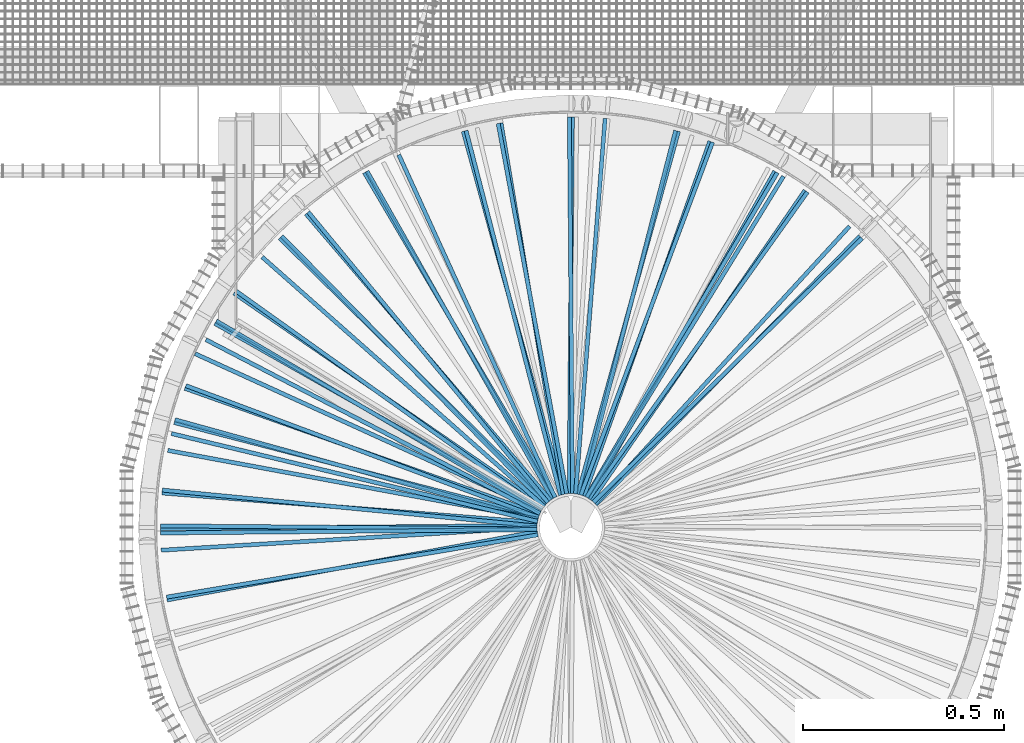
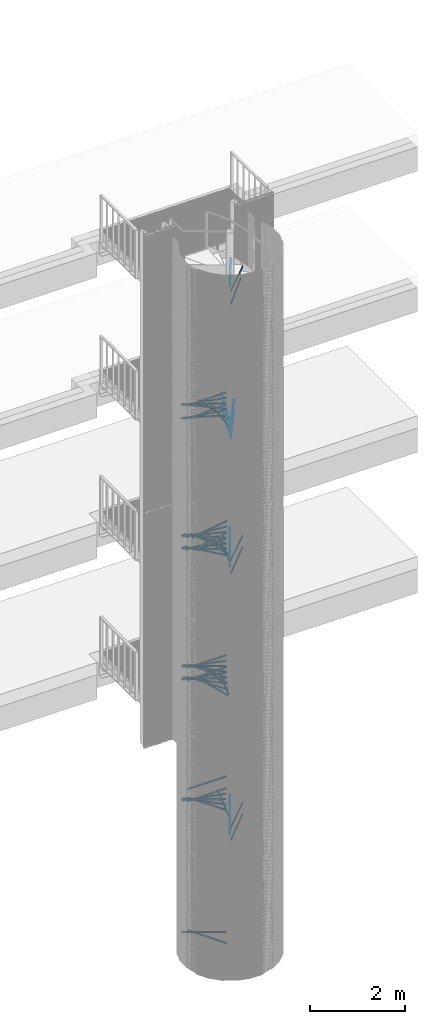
# One storey, part 218 of 1148: 61 beams, 4 elements without a shape of their own.
"""IFC2X3 building model written with IfcOpenShell, lengths in millimetres."""

from ifc_helpers import new_model, si_unit, frame, origin_with_axes, origin_2d_with_axis, place, context, subcontext, project, spatial, rectangle, extrude, material, type_object, element, aggregate, save


model = new_model("IFC2X3")

# Units and contexts
model_context = context("Model", 3, precision=1e-05, world=origin_with_axes())
body_context = subcontext(model_context, "Body", "Model", "MODEL_VIEW")
ifc_project = project(units=[si_unit("LENGTHUNIT", "METRE", prefix="MILLI"), si_unit("AREAUNIT", "SQUARE_METRE"), si_unit("VOLUMEUNIT", "CUBIC_METRE"), si_unit("MASSUNIT", "GRAM", prefix="KILO"), si_unit("TIMEUNIT", "SECOND"), si_unit("PLANEANGLEUNIT", "RADIAN"), si_unit("SOLIDANGLEUNIT", "STERADIAN"), si_unit("THERMODYNAMICTEMPERATUREUNIT", "DEGREE_CELSIUS"), si_unit("LUMINOUSINTENSITYUNIT", "LUMEN")], contexts=[model_context])

# Site, building, storey
site_placement = place(None, origin_with_axes())
site = spatial("IfcSite", under=ifc_project, at=site_placement, Name="Undefined", CompositionType="ELEMENT")
building_placement = place(site_placement, origin_with_axes())
building = spatial("IfcBuilding", under=site, at=building_placement, Name="Undefined", CompositionType="ELEMENT")
storey_placement = place(building_placement, origin_with_axes())
storey = spatial("IfcBuildingStorey", under=building, at=storey_placement, Name="Undefined", CompositionType="ELEMENT", Elevation=0.0)

# Assembly, beams
assembly_1_placement = place(storey_placement, origin_with_axes())
assembly_1 = element("IfcElementAssembly", 1, at=assembly_1_placement, inside=storey, Name="POTEAU", AssemblyPlace="NOTDEFINED", PredefinedType="NOTDEFINED")
ifc_material = material(Name="STEEL/S235JR")
beam_type = type_object("IfcBeamType", Name="PL10*40", PredefinedType="NOTDEFINED")
beam_1_placement = place(assembly_1_placement, frame((24.6816633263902, 80.3530437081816, 13509.44), z_axis=(0.0, 0.0, 1.0), x_axis=(0.349966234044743, 0.936762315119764, 0.0)))
beam_1 = element("IfcBeam", 2, at=beam_1_placement, type_object=beam_type, material=ifc_material, Name="RAIDISSEUR", context=body_context, shape_type="SweptSolid", body=[
    extrude(rectangle(XDim=10.0, YDim=40.0, at=origin_2d_with_axis()), frame((935.982964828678, -2.59787459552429e-14, -3.63797880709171e-12), z_axis=(-1.0, 0.0, 0.0), x_axis=(0.0, -1.0, 0.0)), (0.0, 0.0, 1.0), 935.98),
])
beam_2_placement = place(assembly_1_placement, frame((-10.3535337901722, 83.4182262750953, 13509.44), z_axis=(0.0, 0.0, 1.0), x_axis=(-0.181982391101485, 0.983301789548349, 0.0)))
beam_2 = element("IfcBeam", 3, at=beam_2_placement, type_object=beam_type, material=ifc_material, Name="RAIDISSEUR", context=body_context, shape_type="SweptSolid", body=[
    extrude(rectangle(XDim=10.0, YDim=40.0, at=origin_2d_with_axis()), frame((935.982964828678, -2.59787459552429e-14, -3.63797880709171e-12), z_axis=(-1.0, 0.0, 0.0), x_axis=(0.0, -1.0, 0.0)), (0.0, 0.0, 1.0), 935.98),
])
beam_3_placement = place(assembly_1_placement, frame((44.6375540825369, 71.2269955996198, 13352.92), z_axis=(0.0, 0.0, 1.0), x_axis=(0.580493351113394, 0.814264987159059, 0.0)))
beam_3 = element("IfcBeam", 4, at=beam_3_placement, type_object=beam_type, material=ifc_material, Name="RAIDISSEUR", context=body_context, shape_type="SweptSolid", body=[
    extrude(rectangle(XDim=10.0, YDim=40.0, at=origin_2d_with_axis()), frame((935.982964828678, -2.59787459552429e-14, -3.63797880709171e-12), z_axis=(-1.0, 0.0, 0.0), x_axis=(0.0, -1.0, 0.0)), (0.0, 0.0, 1.0), 935.98),
])
beam_4_placement = place(assembly_1_placement, frame((11.589479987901, 83.2555108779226, 13352.92), z_axis=(0.0, 0.0, 1.0), x_axis=(0.0787157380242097, 0.996897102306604, 0.0)))
beam_4 = element("IfcBeam", 5, at=beam_4_placement, type_object=beam_type, material=ifc_material, Name="RAIDISSEUR", context=body_context, shape_type="SweptSolid", body=[
    extrude(rectangle(XDim=10.0, YDim=40.0, at=origin_2d_with_axis()), frame((935.982964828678, -2.59787459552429e-14, -3.63797880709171e-12), z_axis=(-1.0, 0.0, 0.0), x_axis=(0.0, -1.0, 0.0)), (0.0, 0.0, 1.0), 935.98),
])

assembly_2_placement = place(storey_placement, origin_with_axes())
assembly_2 = element("IfcElementAssembly", 6, at=assembly_2_placement, inside=storey, Name="POTEAU", AssemblyPlace="NOTDEFINED", PredefinedType="NOTDEFINED")
beam_5_placement = place(assembly_2_placement, frame((45.6889352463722, 70.5571919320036, 9752.92000000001), z_axis=(0.0, 0.0, 1.0), x_axis=(0.492647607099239, 0.870228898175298, 0.0)))
beam_5 = element("IfcBeam", 7, at=beam_5_placement, type_object=beam_type, material=ifc_material, Name="RAIDISSEUR", context=body_context, shape_type="SweptSolid", body=[
    extrude(rectangle(XDim=10.0, YDim=40.0, at=origin_2d_with_axis()), frame((935.982964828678, -2.59787459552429e-14, -3.63797880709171e-12), z_axis=(-1.0, 0.0, 0.0), x_axis=(0.0, -1.0, 0.0)), (0.0, 0.0, 1.0), 935.98),
])
beam_6_placement = place(assembly_2_placement, frame((62.3936675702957, 56.3278473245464, 9596.40000000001), z_axis=(0.0, 0.0, 1.0), x_axis=(0.701092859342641, 0.713069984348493, 0.0)))
beam_6 = element("IfcBeam", 8, at=beam_6_placement, type_object=beam_type, material=ifc_material, Name="RAIDISSEUR", context=body_context, shape_type="SweptSolid", body=[
    extrude(rectangle(XDim=10.0, YDim=40.0, at=origin_2d_with_axis()), frame((935.982964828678, -2.59787459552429e-14, -3.63797880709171e-12), z_axis=(-1.0, 0.0, 0.0), x_axis=(0.0, -1.0, 0.0)), (0.0, 0.0, 1.0), 935.98),
])
beam_7_placement = place(assembly_2_placement, frame((25.8705774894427, 79.978180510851, 9909.44000000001), z_axis=(0.0, 0.0, 1.0), x_axis=(0.250629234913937, 0.968083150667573, 0.0)))
beam_7 = element("IfcBeam", 9, at=beam_7_placement, type_object=beam_type, material=ifc_material, Name="RAIDISSEUR", context=body_context, shape_type="SweptSolid", body=[
    extrude(rectangle(XDim=10.0, YDim=40.0, at=origin_2d_with_axis()), frame((935.982964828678, -2.59787459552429e-14, -3.63797880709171e-12), z_axis=(-1.0, 0.0, 0.0), x_axis=(0.0, -1.0, 0.0)), (0.0, 0.0, 1.0), 935.98),
])
beam_8_placement = place(assembly_2_placement, frame((38.2598530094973, 74.8463745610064, 10065.96), z_axis=(0.0, 0.0, 1.0), x_axis=(0.507316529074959, 0.861759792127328, 0.0)))
beam_8 = element("IfcBeam", 10, at=beam_8_placement, type_object=beam_type, material=ifc_material, Name="RAIDISSEUR", context=body_context, shape_type="SweptSolid", body=[
    extrude(rectangle(XDim=10.0, YDim=40.0, at=origin_2d_with_axis()), frame((935.982964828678, -2.59787459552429e-14, -3.63797880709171e-12), z_axis=(-1.0, 0.0, 0.0), x_axis=(0.0, -1.0, 0.0)), (0.0, 0.0, 1.0), 935.98),
])
beam_9_placement = place(assembly_2_placement, frame((4.2891826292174, 83.9487882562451, 10065.96), z_axis=(0.0, 0.0, 1.0), x_axis=(-0.00846910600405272, 0.99996413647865, 0.0)))
beam_9 = element("IfcBeam", 11, at=beam_9_placement, type_object=beam_type, material=ifc_material, Name="RAIDISSEUR", context=body_context, shape_type="SweptSolid", body=[
    extrude(rectangle(XDim=10.0, YDim=40.0, at=origin_2d_with_axis()), frame((935.982964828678, -2.59787459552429e-14, -3.63797880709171e-12), z_axis=(-1.0, 0.0, 0.0), x_axis=(0.0, -1.0, 0.0)), (0.0, 0.0, 1.0), 935.98),
])

assembly_3_placement = place(storey_placement, origin_with_axes())
assembly_3 = element("IfcElementAssembly", 12, at=assembly_3_placement, inside=storey, Name="POTEAU", AssemblyPlace="NOTDEFINED", PredefinedType="NOTDEFINED")
beam_10_placement = place(assembly_3_placement, frame((45.6889352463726, 70.5571919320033, 2911.88), z_axis=(0.0, 0.0, 1.0), x_axis=(0.492647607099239, 0.870228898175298, 0.0)))
beam_10 = element("IfcBeam", 13, at=beam_10_placement, type_object=beam_type, material=ifc_material, Name="RAIDISSEUR", context=body_context, shape_type="SweptSolid", body=[
    extrude(rectangle(XDim=10.0, YDim=40.0, at=origin_2d_with_axis()), frame((935.982964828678, -2.59787459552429e-14, -3.63797880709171e-12), z_axis=(-1.0, 0.0, 0.0), x_axis=(0.0, -1.0, 0.0)), (0.0, 0.0, 1.0), 935.98),
])
beam_11_placement = place(assembly_3_placement, frame((38.2598530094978, 74.8463745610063, 3220.92), z_axis=(0.0, 0.0, 1.0), x_axis=(0.507316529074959, 0.861759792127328, 0.0)))
beam_11 = element("IfcBeam", 14, at=beam_11_placement, type_object=beam_type, material=ifc_material, Name="RAIDISSEUR", context=body_context, shape_type="SweptSolid", body=[
    extrude(rectangle(XDim=10.0, YDim=40.0, at=origin_2d_with_axis()), frame((935.982964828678, -2.59787459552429e-14, -3.63797880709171e-12), z_axis=(-1.0, 0.0, 0.0), x_axis=(0.0, -1.0, 0.0)), (0.0, 0.0, 1.0), 935.98),
])
beam_12_placement = place(assembly_3_placement, frame((-70.557191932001, 45.6889352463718, 3839.0), z_axis=(0.0, 0.0, 1.0), x_axis=(-0.870228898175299, 0.492647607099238, 0.0)))
beam_12 = element("IfcBeam", 15, at=beam_12_placement, type_object=beam_type, material=ifc_material, Name="RAIDISSEUR", context=body_context, shape_type="SweptSolid", body=[
    extrude(rectangle(XDim=10.0, YDim=40.0, at=origin_2d_with_axis()), frame((935.982964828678, -2.59787459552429e-14, -3.63797880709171e-12), z_axis=(-1.0, 0.0, 0.0), x_axis=(0.0, -1.0, 0.0)), (0.0, 0.0, 1.0), 935.98),
])

assembly_4_placement = place(storey_placement, origin_with_axes())
assembly_4 = element("IfcElementAssembly", 16, at=assembly_4_placement, inside=storey, Name="POTEAU", AssemblyPlace="NOTDEFINED", PredefinedType="NOTDEFINED")
beam_13_placement = place(assembly_4_placement, frame((56.3278473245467, 62.3936675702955, 16796.4), z_axis=(0.0, 0.0, 1.0), x_axis=(0.713069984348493, 0.70109285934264, 0.0)))
beam_13 = element("IfcBeam", 17, at=beam_13_placement, type_object=beam_type, material=ifc_material, Name="RAIDISSEUR", context=body_context, shape_type="SweptSolid", body=[
    extrude(rectangle(XDim=10.0, YDim=40.0, at=origin_2d_with_axis()), frame((935.982964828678, -2.59787459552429e-14, -3.63797880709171e-12), z_axis=(-1.0, 0.0, 0.0), x_axis=(0.0, -1.0, 0.0)), (0.0, 0.0, 1.0), 935.98),
])
beam_14_placement = place(assembly_4_placement, frame((-83.8611458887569, -5.75363773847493, 14292.08), z_axis=(0.0, 0.0, 1.0), x_axis=(-0.999959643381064, -0.00898396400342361, 0.0)))
beam_14 = element("IfcBeam", 18, at=beam_14_placement, type_object=beam_type, material=ifc_material, Name="RAIDISSEUR", context=body_context, shape_type="SweptSolid", body=[
    extrude(rectangle(XDim=10.0, YDim=40.0, at=origin_2d_with_axis()), frame((935.982964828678, -2.59787459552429e-14, -3.63797880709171e-12), z_axis=(-1.0, 0.0, 0.0), x_axis=(0.0, -1.0, 0.0)), (0.0, 0.0, 1.0), 935.98),
])
beam_15_placement = place(assembly_4_placement, frame((60.3898455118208, 58.4710415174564, 16483.36), z_axis=(0.0, 0.0, 1.0), x_axis=(0.67577998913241, 0.737103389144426, 0.0)))
beam_15 = element("IfcBeam", 19, at=beam_15_placement, type_object=beam_type, material=ifc_material, Name="RAIDISSEUR", context=body_context, shape_type="SweptSolid", body=[
    extrude(rectangle(XDim=10.0, YDim=40.0, at=origin_2d_with_axis()), frame((935.982964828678, -2.59787459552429e-14, -3.63797880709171e-12), z_axis=(-1.0, 0.0, 0.0), x_axis=(0.0, -1.0, 0.0)), (0.0, 0.0, 1.0), 935.98),
])
beam_16_placement = place(assembly_4_placement, frame((-66.170911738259, 51.8382732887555, 13822.52), z_axis=(0.0, 0.0, 1.0), x_axis=(-0.749126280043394, 0.662427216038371, 0.0)))
beam_16 = element("IfcBeam", 20, at=beam_16_placement, type_object=beam_type, material=ifc_material, Name="RAIDISSEUR", context=body_context, shape_type="SweptSolid", body=[
    extrude(rectangle(XDim=10.0, YDim=40.0, at=origin_2d_with_axis()), frame((935.982964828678, -2.59787459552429e-14, -3.63797880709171e-12), z_axis=(-1.0, 0.0, 0.0), x_axis=(0.0, -1.0, 0.0)), (0.0, 0.0, 1.0), 935.98),
])
beam_17_placement = place(assembly_4_placement, frame((-84.0582178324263, -0.110235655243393, 13979.04), z_axis=(0.0, 0.0, 1.0), x_axis=(-0.998150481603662, -0.0607915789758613, 0.0)))
beam_17 = element("IfcBeam", 21, at=beam_17_placement, type_object=beam_type, material=ifc_material, Name="RAIDISSEUR", context=body_context, shape_type="SweptSolid", body=[
    extrude(rectangle(XDim=10.0, YDim=40.0, at=origin_2d_with_axis()), frame((935.982964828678, -2.59787459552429e-14, -3.63797880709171e-12), z_axis=(-1.0, 0.0, 0.0), x_axis=(0.0, -1.0, 0.0)), (0.0, 0.0, 1.0), 935.98),
])
beam_18_placement = place(assembly_4_placement, frame((-81.5879979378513, 20.2285622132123, 13822.52), z_axis=(0.0, 0.0, 1.0), x_axis=(-0.983207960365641, 0.182488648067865, 0.0)))
beam_18 = element("IfcBeam", 22, at=beam_18_placement, type_object=beam_type, material=ifc_material, Name="RAIDISSEUR", context=body_context, shape_type="SweptSolid", body=[
    extrude(rectangle(XDim=10.0, YDim=40.0, at=origin_2d_with_axis()), frame((935.982964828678, -2.59787459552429e-14, -3.63797880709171e-12), z_axis=(-1.0, 0.0, 0.0), x_axis=(0.0, -1.0, 0.0)), (0.0, 0.0, 1.0), 935.98),
])
beam_19_placement = place(assembly_4_placement, frame((-82.762042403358, 14.7051172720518, 14135.56), z_axis=(0.0, 0.0, 1.0), x_axis=(-0.972429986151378, 0.233195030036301, 0.0)))
beam_19 = element("IfcBeam", 23, at=beam_19_placement, type_object=beam_type, material=ifc_material, Name="RAIDISSEUR", context=body_context, shape_type="SweptSolid", body=[
    extrude(rectangle(XDim=10.0, YDim=40.0, at=origin_2d_with_axis()), frame((935.982964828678, -2.59787459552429e-14, -3.63797880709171e-12), z_axis=(-1.0, 0.0, 0.0), x_axis=(0.0, -1.0, 0.0)), (0.0, 0.0, 1.0), 935.98),
])
beam_20_placement = place(assembly_4_placement, frame((39.5602751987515, 74.1672485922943, 16952.92), z_axis=(0.0, 0.0, 1.0), x_axis=(0.522279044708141, 0.852774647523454, 0.0)))
beam_20 = element("IfcBeam", 24, at=beam_20_placement, type_object=beam_type, material=ifc_material, Name="RAIDISSEUR", context=body_context, shape_type="SweptSolid", body=[
    extrude(rectangle(XDim=10.0, YDim=40.0, at=origin_2d_with_axis()), frame((935.982964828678, -2.59787459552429e-14, -3.63797880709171e-12), z_axis=(-1.0, 0.0, 0.0), x_axis=(0.0, -1.0, 0.0)), (0.0, 0.0, 1.0), 935.98),
])
beam_21_placement = place(assembly_4_placement, frame((-76.7461662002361, 34.2902626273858, 13979.04), z_axis=(0.0, 0.0, 1.0), x_axis=(-0.88712967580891, 0.461520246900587, 0.0)))
beam_21 = element("IfcBeam", 25, at=beam_21_placement, type_object=beam_type, material=ifc_material, Name="RAIDISSEUR", context=body_context, shape_type="SweptSolid", body=[
    extrude(rectangle(XDim=10.0, YDim=40.0, at=origin_2d_with_axis()), frame((935.982964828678, -2.59787459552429e-14, -3.63797880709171e-12), z_axis=(-1.0, 0.0, 0.0), x_axis=(0.0, -1.0, 0.0)), (0.0, 0.0, 1.0), 935.98),
])
beam_22_placement = place(assembly_4_placement, frame((-74.2707319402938, 39.365600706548, 13666.0), z_axis=(0.0, 0.0, 1.0), x_axis=(-0.909856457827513, 0.41492315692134, 0.0)))
beam_22 = element("IfcBeam", 26, at=beam_22_placement, type_object=beam_type, material=ifc_material, Name="RAIDISSEUR", context=body_context, shape_type="SweptSolid", body=[
    extrude(rectangle(XDim=10.0, YDim=40.0, at=origin_2d_with_axis()), frame((944.982352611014, -5.24570582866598e-14, 0.0), z_axis=(-1.0, 0.0, 0.0), x_axis=(0.0, -1.0, 0.0)), (0.0, 0.0, 1.0), 944.98),
])
aggregate(assembly_4, [beam_13, beam_14, beam_15, beam_16, beam_17, beam_18, beam_19, beam_20, beam_21, beam_22])

# Beam
beam_23_placement = place(assembly_1_placement, frame((-81.9286087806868, -18.8015744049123, 11005.12), z_axis=(0.0, 0.0, 1.0), x_axis=(-0.986243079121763, -0.165301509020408, 0.0)))
beam_23 = element("IfcBeam", 27, at=beam_23_placement, type_object=beam_type, material=ifc_material, Name="RAIDISSEUR", context=body_context, shape_type="SweptSolid", body=[
    extrude(rectangle(XDim=10.0, YDim=40.0, at=origin_2d_with_axis()), frame((935.982964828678, -2.59787459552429e-14, -3.63797880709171e-12), z_axis=(-1.0, 0.0, 0.0), x_axis=(0.0, -1.0, 0.0)), (0.0, 0.0, 1.0), 935.98),
])

beam_24_placement = place(assembly_1_placement, frame((-84.0031646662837, 3.04375799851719, 10848.6), z_axis=(0.0, 0.0, 1.0), x_axis=(-0.995420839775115, 0.0955894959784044, 0.0)))
beam_24 = element("IfcBeam", 28, at=beam_24_placement, type_object=beam_type, material=ifc_material, Name="RAIDISSEUR", context=body_context, shape_type="SweptSolid", body=[
    extrude(rectangle(XDim=10.0, YDim=40.0, at=origin_2d_with_axis()), frame((935.982964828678, -2.59787459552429e-14, -3.63797880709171e-12), z_axis=(-1.0, 0.0, 0.0), x_axis=(0.0, -1.0, 0.0)), (0.0, 0.0, 1.0), 935.98),
])

beam_25_placement = place(assembly_1_placement, frame((-83.418226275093, -10.3535337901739, 10692.08), z_axis=(0.0, 0.0, 1.0), x_axis=(-0.983301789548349, -0.181982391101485, 0.0)))
beam_25 = element("IfcBeam", 29, at=beam_25_placement, type_object=beam_type, material=ifc_material, Name="RAIDISSEUR", context=body_context, shape_type="SweptSolid", body=[
    extrude(rectangle(XDim=10.0, YDim=40.0, at=origin_2d_with_axis()), frame((935.982964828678, -2.59787459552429e-14, -3.63797880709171e-12), z_axis=(-1.0, 0.0, 0.0), x_axis=(0.0, -1.0, 0.0)), (0.0, 0.0, 1.0), 935.98),
])

beam_26_placement = place(assembly_1_placement, frame((51.6645395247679, 66.3066474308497, 13039.88), z_axis=(0.0, 0.0, 1.0), x_axis=(0.566618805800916, 0.823980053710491, 0.0)))
beam_26 = element("IfcBeam", 30, at=beam_26_placement, type_object=beam_type, material=ifc_material, Name="RAIDISSEUR", context=body_context, shape_type="SweptSolid", body=[
    extrude(rectangle(XDim=10.0, YDim=40.0, at=origin_2d_with_axis()), frame((935.982964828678, -2.59787459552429e-14, -3.63797880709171e-12), z_axis=(-1.0, 0.0, 0.0), x_axis=(0.0, -1.0, 0.0)), (0.0, 0.0, 1.0), 935.98),
])

beam_27_placement = place(assembly_1_placement, frame((-80.353043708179, 24.6816633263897, 10692.08), z_axis=(0.0, 0.0, 1.0), x_axis=(-0.936762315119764, 0.349966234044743, 0.0)))
beam_27 = element("IfcBeam", 31, at=beam_27_placement, type_object=beam_type, material=ifc_material, Name="RAIDISSEUR", context=body_context, shape_type="SweptSolid", body=[
    extrude(rectangle(XDim=10.0, YDim=40.0, at=origin_2d_with_axis()), frame((935.982964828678, -2.59787459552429e-14, -3.63797880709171e-12), z_axis=(-1.0, 0.0, 0.0), x_axis=(0.0, -1.0, 0.0)), (0.0, 0.0, 1.0), 935.98),
])

beam_28_placement = place(assembly_1_placement, frame((-39.3656105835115, 74.2707535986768, 10222.52), z_axis=(0.0, 0.0, 1.0), x_axis=(-0.414927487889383, 0.909854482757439, 0.0)))
beam_28 = element("IfcBeam", 32, at=beam_28_placement, type_object=beam_type, material=ifc_material, Name="RAIDISSEUR", context=body_context, shape_type="SweptSolid", body=[
    extrude(rectangle(XDim=10.0, YDim=40.0, at=origin_2d_with_axis()), frame((935.982964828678, -2.59787459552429e-14, -3.63797880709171e-12), z_axis=(-1.0, 0.0, 0.0), x_axis=(0.0, -1.0, 0.0)), (0.0, 0.0, 1.0), 935.98),
])

beam_29_placement = place(assembly_1_placement, frame((-77.4190699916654, 32.7426898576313, 10379.04), z_axis=(0.0, 0.0, 1.0), x_axis=(-0.942555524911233, 0.33404952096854, 0.0)))
beam_29 = element("IfcBeam", 33, at=beam_29_placement, type_object=beam_type, material=ifc_material, Name="RAIDISSEUR", context=body_context, shape_type="SweptSolid", body=[
    extrude(rectangle(XDim=10.0, YDim=40.0, at=origin_2d_with_axis()), frame((935.982964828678, -2.59787459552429e-14, -3.63797880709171e-12), z_axis=(-1.0, 0.0, 0.0), x_axis=(0.0, -1.0, 0.0)), (0.0, 0.0, 1.0), 935.98),
])

beam_30_placement = place(assembly_1_placement, frame((-83.2555108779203, 11.5894799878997, 10535.56), z_axis=(0.0, 0.0, 1.0), x_axis=(-0.996897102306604, 0.0787157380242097, 0.0)))
beam_30 = element("IfcBeam", 34, at=beam_30_placement, type_object=beam_type, material=ifc_material, Name="RAIDISSEUR", context=body_context, shape_type="SweptSolid", body=[
    extrude(rectangle(XDim=10.0, YDim=40.0, at=origin_2d_with_axis()), frame((935.982964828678, -2.59787459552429e-14, -3.63797880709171e-12), z_axis=(-1.0, 0.0, 0.0), x_axis=(0.0, -1.0, 0.0)), (0.0, 0.0, 1.0), 935.98),
])

beam_31_placement = place(assembly_1_placement, frame((-66.3066474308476, 51.6645395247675, 10222.52), z_axis=(0.0, 0.0, 1.0), x_axis=(-0.823980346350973, 0.56661838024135, 0.0)))
beam_31 = element("IfcBeam", 35, at=beam_31_placement, type_object=beam_type, material=ifc_material, Name="RAIDISSEUR", context=body_context, shape_type="SweptSolid", body=[
    extrude(rectangle(XDim=10.0, YDim=40.0, at=origin_2d_with_axis()), frame((935.982964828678, -2.59787459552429e-14, -3.63797880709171e-12), z_axis=(-1.0, 0.0, 0.0), x_axis=(0.0, -1.0, 0.0)), (0.0, 0.0, 1.0), 935.98),
])

beam_32_placement = place(assembly_1_placement, frame((-71.2269955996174, 44.6375540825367, 10535.56), z_axis=(0.0, 0.0, 1.0), x_axis=(-0.814264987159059, 0.580493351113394, 0.0)))
beam_32 = element("IfcBeam", 36, at=beam_32_placement, type_object=beam_type, material=ifc_material, Name="RAIDISSEUR", context=body_context, shape_type="SweptSolid", body=[
    extrude(rectangle(XDim=10.0, YDim=40.0, at=origin_2d_with_axis()), frame((935.982964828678, -2.59787459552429e-14, -3.63797880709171e-12), z_axis=(-1.0, 0.0, 0.0), x_axis=(0.0, -1.0, 0.0)), (0.0, 0.0, 1.0), 935.98),
])

beam_33_placement = place(assembly_1_placement, frame((32.7426898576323, 77.4190699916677, 13196.4), z_axis=(0.0, 0.0, 1.0), x_axis=(0.33404952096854, 0.942555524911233, 0.0)))
beam_33 = element("IfcBeam", 37, at=beam_33_placement, type_object=beam_type, material=ifc_material, Name="RAIDISSEUR", context=body_context, shape_type="SweptSolid", body=[
    extrude(rectangle(XDim=10.0, YDim=40.0, at=origin_2d_with_axis()), frame((935.982964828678, -2.59787459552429e-14, -3.63797880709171e-12), z_axis=(-1.0, 0.0, 0.0), x_axis=(0.0, -1.0, 0.0)), (0.0, 0.0, 1.0), 935.98),
])

beam_34_placement = place(assembly_1_placement, frame((-57.2469454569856, 61.5514692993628, 10379.04), z_axis=(0.0, 0.0, 1.0), x_axis=(-0.636276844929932, 0.771460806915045, 0.0)))
beam_34 = element("IfcBeam", 38, at=beam_34_placement, type_object=beam_type, material=ifc_material, Name="RAIDISSEUR", context=body_context, shape_type="SweptSolid", body=[
    extrude(rectangle(XDim=10.0, YDim=40.0, at=origin_2d_with_axis()), frame((935.982964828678, -2.59787459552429e-14, -3.63797880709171e-12), z_axis=(-1.0, 0.0, 0.0), x_axis=(0.0, -1.0, 0.0)), (0.0, 0.0, 1.0), 935.98),
])

beam_35_placement = place(assembly_1_placement, frame((-50.6755364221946, 67.065536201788, 10066.0), z_axis=(0.0, 0.0, 1.0), x_axis=(-0.649252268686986, 0.760573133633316, 0.0)))
beam_35 = element("IfcBeam", 39, at=beam_35_placement, type_object=beam_type, material=ifc_material, Name="RAIDISSEUR", context=body_context, shape_type="SweptSolid", body=[
    extrude(rectangle(XDim=10.0, YDim=40.0, at=origin_2d_with_axis()), frame((935.982964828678, -2.59787459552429e-14, -3.63797880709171e-12), z_axis=(-1.0, 0.0, 0.0), x_axis=(0.0, -1.0, 0.0)), (0.0, 0.0, 1.0), 935.98),
])

beam_36_placement = place(assembly_1_placement, frame((-18.801574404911, 81.9286087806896, 10066.0), z_axis=(0.0, 0.0, 1.0), x_axis=(-0.165301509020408, 0.986243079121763, 0.0)))
beam_36 = element("IfcBeam", 40, at=beam_36_placement, type_object=beam_type, material=ifc_material, Name="RAIDISSEUR", context=body_context, shape_type="SweptSolid", body=[
    extrude(rectangle(XDim=10.0, YDim=40.0, at=origin_2d_with_axis()), frame((935.982964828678, -2.59787459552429e-14, -3.63797880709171e-12), z_axis=(-1.0, 0.0, 0.0), x_axis=(0.0, -1.0, 0.0)), (0.0, 0.0, 1.0), 935.98),
])

aggregate(assembly_1, [beam_1, beam_2, beam_3, beam_4, beam_23, beam_24, beam_25, beam_26, beam_27, beam_28, beam_29, beam_30, beam_31, beam_32, beam_33, beam_34, beam_35, beam_36])

beam_37_placement = place(assembly_2_placement, frame((-82.1984248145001, 17.5845129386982, 7405.12), z_axis=(0.0, 0.0, 1.0), x_axis=(-0.963699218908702, 0.266990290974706, 0.0)))
beam_37 = element("IfcBeam", 41, at=beam_37_placement, type_object=beam_type, material=ifc_material, Name="RAIDISSEUR", context=body_context, shape_type="SweptSolid", body=[
    extrude(rectangle(XDim=10.0, YDim=40.0, at=origin_2d_with_axis()), frame((935.982964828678, -2.59787459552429e-14, -3.63797880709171e-12), z_axis=(-1.0, 0.0, 0.0), x_axis=(0.0, -1.0, 0.0)), (0.0, 0.0, 1.0), 935.98),
])

beam_38_placement = place(assembly_2_placement, frame((-74.8463745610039, 38.2598530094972, 7248.6), z_axis=(0.0, 0.0, 1.0), x_axis=(-0.861759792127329, 0.507316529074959, 0.0)))
beam_38 = element("IfcBeam", 42, at=beam_38_placement, type_object=beam_type, material=ifc_material, Name="RAIDISSEUR", context=body_context, shape_type="SweptSolid", body=[
    extrude(rectangle(XDim=10.0, YDim=40.0, at=origin_2d_with_axis()), frame((935.982964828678, -2.59787459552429e-14, -3.63797880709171e-12), z_axis=(-1.0, 0.0, 0.0), x_axis=(0.0, -1.0, 0.0)), (0.0, 0.0, 1.0), 935.98),
])

beam_39_placement = place(assembly_2_placement, frame((-79.9781805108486, 25.8705774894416, 7092.08), z_axis=(0.0, 0.0, 1.0), x_axis=(-0.968083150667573, 0.250629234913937, 0.0)))
beam_39 = element("IfcBeam", 43, at=beam_39_placement, type_object=beam_type, material=ifc_material, Name="RAIDISSEUR", context=body_context, shape_type="SweptSolid", body=[
    extrude(rectangle(XDim=10.0, YDim=40.0, at=origin_2d_with_axis()), frame((935.982964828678, -2.59787459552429e-14, -3.63797880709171e-12), z_axis=(-1.0, 0.0, 0.0), x_axis=(0.0, -1.0, 0.0)), (0.0, 0.0, 1.0), 935.98),
])

beam_40_placement = place(assembly_2_placement, frame((-62.3936675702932, 56.3278473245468, 7092.08), z_axis=(0.0, 0.0, 1.0), x_axis=(-0.70109285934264, 0.713069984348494, 0.0)))
beam_40 = element("IfcBeam", 44, at=beam_40_placement, type_object=beam_type, material=ifc_material, Name="RAIDISSEUR", context=body_context, shape_type="SweptSolid", body=[
    extrude(rectangle(XDim=10.0, YDim=40.0, at=origin_2d_with_axis()), frame((935.982964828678, -2.59787459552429e-14, -3.63797880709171e-12), z_axis=(-1.0, 0.0, 0.0), x_axis=(0.0, -1.0, 0.0)), (0.0, 0.0, 1.0), 935.98),
])

beam_41_placement = place(assembly_2_placement, frame((-4.28918262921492, 83.9487882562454, 6622.52), z_axis=(0.0, 0.0, 1.0), x_axis=(0.00846910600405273, 0.99996413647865, 0.0)))
beam_41 = element("IfcBeam", 45, at=beam_41_placement, type_object=beam_type, material=ifc_material, Name="RAIDISSEUR", context=body_context, shape_type="SweptSolid", body=[
    extrude(rectangle(XDim=10.0, YDim=40.0, at=origin_2d_with_axis()), frame((935.982964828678, -2.59787459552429e-14, -3.63797880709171e-12), z_axis=(-1.0, 0.0, 0.0), x_axis=(0.0, -1.0, 0.0)), (0.0, 0.0, 1.0), 935.98),
])

beam_42_placement = place(assembly_2_placement, frame((-83.9487882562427, 4.289182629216, 7248.6), z_axis=(0.0, 0.0, 1.0), x_axis=(-0.99996413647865, -0.00846910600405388, 0.0)))
beam_42 = element("IfcBeam", 46, at=beam_42_placement, type_object=beam_type, material=ifc_material, Name="RAIDISSEUR", context=body_context, shape_type="SweptSolid", body=[
    extrude(rectangle(XDim=10.0, YDim=40.0, at=origin_2d_with_axis()), frame((935.982964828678, -2.59787459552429e-14, -3.63797880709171e-12), z_axis=(-1.0, 0.0, 0.0), x_axis=(0.0, -1.0, 0.0)), (0.0, 0.0, 1.0), 935.98),
])

beam_43_placement = place(assembly_2_placement, frame((-56.3278473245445, 62.3936675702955, 6779.04), z_axis=(0.0, 0.0, 1.0), x_axis=(-0.713069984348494, 0.70109285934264, 0.0)))
beam_43 = element("IfcBeam", 47, at=beam_43_placement, type_object=beam_type, material=ifc_material, Name="RAIDISSEUR", context=body_context, shape_type="SweptSolid", body=[
    extrude(rectangle(XDim=10.0, YDim=40.0, at=origin_2d_with_axis()), frame((935.982964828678, -2.59787459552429e-14, -3.63797880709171e-12), z_axis=(-1.0, 0.0, 0.0), x_axis=(0.0, -1.0, 0.0)), (0.0, 0.0, 1.0), 935.98),
])

beam_44_placement = place(assembly_2_placement, frame((-70.5571919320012, 45.6889352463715, 6935.56), z_axis=(0.0, 0.0, 1.0), x_axis=(-0.870228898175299, 0.492647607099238, 0.0)))
beam_44 = element("IfcBeam", 48, at=beam_44_placement, type_object=beam_type, material=ifc_material, Name="RAIDISSEUR", context=body_context, shape_type="SweptSolid", body=[
    extrude(rectangle(XDim=10.0, YDim=40.0, at=origin_2d_with_axis()), frame((935.982964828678, -2.59787459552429e-14, -3.63797880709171e-12), z_axis=(-1.0, 0.0, 0.0), x_axis=(0.0, -1.0, 0.0)), (0.0, 0.0, 1.0), 935.98),
])

beam_45_placement = place(assembly_2_placement, frame((-83.9487882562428, -4.28918262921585, 7561.64), z_axis=(0.0, 0.0, 1.0), x_axis=(-0.99996413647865, 0.00846910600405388, 0.0)))
beam_45 = element("IfcBeam", 49, at=beam_45_placement, type_object=beam_type, material=ifc_material, Name="RAIDISSEUR", context=body_context, shape_type="SweptSolid", body=[
    extrude(rectangle(XDim=10.0, YDim=40.0, at=origin_2d_with_axis()), frame((935.982964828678, -2.59787459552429e-14, -3.63797880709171e-12), z_axis=(-1.0, 0.0, 0.0), x_axis=(0.0, -1.0, 0.0)), (0.0, 0.0, 1.0), 935.98),
])

beam_46_placement = place(assembly_2_placement, frame((56.3278473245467, 62.3936675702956, 9909.44000000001), z_axis=(0.0, 0.0, 1.0), x_axis=(0.713069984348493, 0.70109285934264, 0.0)))
beam_46 = element("IfcBeam", 50, at=beam_46_placement, type_object=beam_type, material=ifc_material, Name="RAIDISSEUR", context=body_context, shape_type="SweptSolid", body=[
    extrude(rectangle(XDim=10.0, YDim=40.0, at=origin_2d_with_axis()), frame((935.982964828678, -2.59787459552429e-14, -3.63797880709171e-12), z_axis=(-1.0, 0.0, 0.0), x_axis=(0.0, -1.0, 0.0)), (0.0, 0.0, 1.0), 935.98),
])

beam_47_placement = place(assembly_2_placement, frame((-38.259853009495, 74.8463745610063, 6622.52), z_axis=(0.0, 0.0, 1.0), x_axis=(-0.507316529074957, 0.861759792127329, 0.0)))
beam_47 = element("IfcBeam", 51, at=beam_47_placement, type_object=beam_type, material=ifc_material, Name="RAIDISSEUR", context=body_context, shape_type="SweptSolid", body=[
    extrude(rectangle(XDim=10.0, YDim=40.0, at=origin_2d_with_axis()), frame((935.982964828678, -2.59787459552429e-14, -3.63797880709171e-12), z_axis=(-1.0, 0.0, 0.0), x_axis=(0.0, -1.0, 0.0)), (0.0, 0.0, 1.0), 935.98),
])

beam_48_placement = place(assembly_2_placement, frame((-45.6889352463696, 70.5571919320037, 6935.56), z_axis=(0.0, 0.0, 1.0), x_axis=(-0.492647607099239, 0.870228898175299, 0.0)))
beam_48 = element("IfcBeam", 52, at=beam_48_placement, type_object=beam_type, material=ifc_material, Name="RAIDISSEUR", context=body_context, shape_type="SweptSolid", body=[
    extrude(rectangle(XDim=10.0, YDim=40.0, at=origin_2d_with_axis()), frame((935.982964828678, -2.59787459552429e-14, -3.63797880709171e-12), z_axis=(-1.0, 0.0, 0.0), x_axis=(0.0, -1.0, 0.0)), (0.0, 0.0, 1.0), 935.98),
])

beam_49_placement = place(assembly_2_placement, frame((-25.8705774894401, 79.9781805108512, 6779.04), z_axis=(0.0, 0.0, 1.0), x_axis=(-0.250629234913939, 0.968083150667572, 0.0)))
beam_49 = element("IfcBeam", 53, at=beam_49_placement, type_object=beam_type, material=ifc_material, Name="RAIDISSEUR", context=body_context, shape_type="SweptSolid", body=[
    extrude(rectangle(XDim=10.0, YDim=40.0, at=origin_2d_with_axis()), frame((935.982964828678, -2.59787459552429e-14, -3.63797880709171e-12), z_axis=(-1.0, 0.0, 0.0), x_axis=(0.0, -1.0, 0.0)), (0.0, 0.0, 1.0), 935.98),
])

beam_50_placement = place(assembly_2_placement, frame((-17.5845129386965, 82.1984248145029, 6466.0), z_axis=(0.0, 0.0, 1.0), x_axis=(-0.266990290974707, 0.963699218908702, 0.0)))
beam_50 = element("IfcBeam", 54, at=beam_50_placement, type_object=beam_type, material=ifc_material, Name="RAIDISSEUR", context=body_context, shape_type="SweptSolid", body=[
    extrude(rectangle(XDim=10.0, YDim=40.0, at=origin_2d_with_axis()), frame((935.982964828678, -2.59787459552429e-14, -3.63797880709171e-12), z_axis=(-1.0, 0.0, 0.0), x_axis=(0.0, -1.0, 0.0)), (0.0, 0.0, 1.0), 935.98),
])

beam_51_placement = place(assembly_2_placement, frame((17.5845129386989, 82.1984248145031, 6466.0), z_axis=(0.0, 0.0, 1.0), x_axis=(0.266990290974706, 0.963699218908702, 0.0)))
beam_51 = element("IfcBeam", 55, at=beam_51_placement, type_object=beam_type, material=ifc_material, Name="RAIDISSEUR", context=body_context, shape_type="SweptSolid", body=[
    extrude(rectangle(XDim=10.0, YDim=40.0, at=origin_2d_with_axis()), frame((935.982964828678, -2.59787459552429e-14, -3.63797880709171e-12), z_axis=(-1.0, 0.0, 0.0), x_axis=(0.0, -1.0, 0.0)), (0.0, 0.0, 1.0), 935.98),
])

aggregate(assembly_2, [beam_5, beam_6, beam_7, beam_8, beam_9, beam_37, beam_38, beam_39, beam_40, beam_41, beam_42, beam_43, beam_44, beam_45, beam_46, beam_47, beam_48, beam_49, beam_50, beam_51])

beam_52_placement = place(assembly_3_placement, frame((-83.9487882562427, 4.28918262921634, 4148.04), z_axis=(0.0, 0.0, 1.0), x_axis=(-0.99996413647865, -0.00846910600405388, 0.0)))
beam_52 = element("IfcBeam", 56, at=beam_52_placement, type_object=beam_type, material=ifc_material, Name="RAIDISSEUR", context=body_context, shape_type="SweptSolid", body=[
    extrude(rectangle(XDim=10.0, YDim=40.0, at=origin_2d_with_axis()), frame((935.982964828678, -2.59787459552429e-14, -3.63797880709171e-12), z_axis=(-1.0, 0.0, 0.0), x_axis=(0.0, -1.0, 0.0)), (0.0, 0.0, 1.0), 935.98),
])

beam_53_placement = place(assembly_3_placement, frame((56.3278473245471, 62.3936675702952, 3066.4), z_axis=(0.0, 0.0, 1.0), x_axis=(0.713069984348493, 0.70109285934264, 0.0)))
beam_53 = element("IfcBeam", 57, at=beam_53_placement, type_object=beam_type, material=ifc_material, Name="RAIDISSEUR", context=body_context, shape_type="SweptSolid", body=[
    extrude(rectangle(XDim=10.0, YDim=40.0, at=origin_2d_with_axis()), frame((935.982964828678, -2.59787459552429e-14, -3.63797880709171e-12), z_axis=(-1.0, 0.0, 0.0), x_axis=(0.0, -1.0, 0.0)), (0.0, 0.0, 1.0), 935.98),
])

beam_54_placement = place(assembly_3_placement, frame((62.393667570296, 56.3278473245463, 2757.36), z_axis=(0.0, 0.0, 1.0), x_axis=(0.701092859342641, 0.713069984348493, 0.0)))
beam_54 = element("IfcBeam", 58, at=beam_54_placement, type_object=beam_type, material=ifc_material, Name="RAIDISSEUR", context=body_context, shape_type="SweptSolid", body=[
    extrude(rectangle(XDim=10.0, YDim=40.0, at=origin_2d_with_axis()), frame((935.982964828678, -2.59787459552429e-14, -3.63797880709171e-12), z_axis=(-1.0, 0.0, 0.0), x_axis=(0.0, -1.0, 0.0)), (0.0, 0.0, 1.0), 935.98),
])

beam_55_placement = place(assembly_3_placement, frame((-83.9487882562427, -4.28918262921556, 4457.08), z_axis=(0.0, 0.0, 1.0), x_axis=(-0.99996413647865, 0.00846910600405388, 0.0)))
beam_55 = element("IfcBeam", 59, at=beam_55_placement, type_object=beam_type, material=ifc_material, Name="RAIDISSEUR", context=body_context, shape_type="SweptSolid", body=[
    extrude(rectangle(XDim=10.0, YDim=40.0, at=origin_2d_with_axis()), frame((935.982964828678, -2.59787459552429e-14, -3.63797880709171e-12), z_axis=(-1.0, 0.0, 0.0), x_axis=(0.0, -1.0, 0.0)), (0.0, 0.0, 1.0), 935.98),
])

beam_56_placement = place(assembly_3_placement, frame((-79.9781805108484, 25.8705774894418, 3993.52), z_axis=(0.0, 0.0, 1.0), x_axis=(-0.968083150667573, 0.250629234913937, 0.0)))
beam_56 = element("IfcBeam", 60, at=beam_56_placement, type_object=beam_type, material=ifc_material, Name="RAIDISSEUR", context=body_context, shape_type="SweptSolid", body=[
    extrude(rectangle(XDim=10.0, YDim=40.0, at=origin_2d_with_axis()), frame((935.982964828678, -2.59787459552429e-14, -3.63797880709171e-12), z_axis=(-1.0, 0.0, 0.0), x_axis=(0.0, -1.0, 0.0)), (0.0, 0.0, 1.0), 935.98),
])

beam_57_placement = place(assembly_3_placement, frame((-45.6889352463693, 70.5571919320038, 130.52), z_axis=(0.0, 0.0, 1.0), x_axis=(-0.492647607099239, 0.870228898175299, 0.0)))
beam_57 = element("IfcBeam", 61, at=beam_57_placement, type_object=beam_type, material=ifc_material, Name="RAIDISSEUR", context=body_context, shape_type="SweptSolid", body=[
    extrude(rectangle(XDim=10.0, YDim=40.0, at=origin_2d_with_axis()), frame((935.982964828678, -2.59787459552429e-14, -3.63797880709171e-12), z_axis=(-1.0, 0.0, 0.0), x_axis=(0.0, -1.0, 0.0)), (0.0, 0.0, 1.0), 935.98),
])

beam_58_placement = place(assembly_3_placement, frame((-74.8463745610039, 38.2598530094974, 439.56), z_axis=(0.0, 0.0, 1.0), x_axis=(-0.861759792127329, 0.507316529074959, 0.0)))
beam_58 = element("IfcBeam", 62, at=beam_58_placement, type_object=beam_type, material=ifc_material, Name="RAIDISSEUR", context=body_context, shape_type="SweptSolid", body=[
    extrude(rectangle(XDim=10.0, YDim=40.0, at=origin_2d_with_axis()), frame((935.982964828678, -2.59787459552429e-14, -3.63797880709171e-12), z_axis=(-1.0, 0.0, 0.0), x_axis=(0.0, -1.0, 0.0)), (0.0, 0.0, 1.0), 935.98),
])

beam_59_placement = place(assembly_3_placement, frame((17.5845129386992, 82.1984248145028, 3375.44), z_axis=(0.0, 0.0, 1.0), x_axis=(0.266990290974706, 0.963699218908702, 0.0)))
beam_59 = element("IfcBeam", 63, at=beam_59_placement, type_object=beam_type, material=ifc_material, Name="RAIDISSEUR", context=body_context, shape_type="SweptSolid", body=[
    extrude(rectangle(XDim=10.0, YDim=40.0, at=origin_2d_with_axis()), frame((935.982964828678, -2.59787459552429e-14, -3.63797880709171e-12), z_axis=(-1.0, 0.0, 0.0), x_axis=(0.0, -1.0, 0.0)), (0.0, 0.0, 1.0), 935.98),
])

beam_60_placement = place(assembly_3_placement, frame((-38.2598530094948, 74.8463745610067, 3529.96), z_axis=(0.0, 0.0, 1.0), x_axis=(-0.507316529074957, 0.861759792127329, 0.0)))
beam_60 = element("IfcBeam", 64, at=beam_60_placement, type_object=beam_type, material=ifc_material, Name="RAIDISSEUR", context=body_context, shape_type="SweptSolid", body=[
    extrude(rectangle(XDim=10.0, YDim=40.0, at=origin_2d_with_axis()), frame((935.982964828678, -2.59787459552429e-14, -3.63797880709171e-12), z_axis=(-1.0, 0.0, 0.0), x_axis=(0.0, -1.0, 0.0)), (0.0, 0.0, 1.0), 935.98),
])

beam_61_placement = place(assembly_3_placement, frame((-56.3278473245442, 62.3936675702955, 3684.48), z_axis=(0.0, 0.0, 1.0), x_axis=(-0.713069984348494, 0.70109285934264, 0.0)))
beam_61 = element("IfcBeam", 65, at=beam_61_placement, type_object=beam_type, material=ifc_material, Name="RAIDISSEUR", context=body_context, shape_type="SweptSolid", body=[
    extrude(rectangle(XDim=10.0, YDim=40.0, at=origin_2d_with_axis()), frame((935.982964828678, -2.59787459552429e-14, -3.63797880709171e-12), z_axis=(-1.0, 0.0, 0.0), x_axis=(0.0, -1.0, 0.0)), (0.0, 0.0, 1.0), 935.98),
])

aggregate(assembly_3, [beam_10, beam_11, beam_12, beam_52, beam_53, beam_54, beam_55, beam_56, beam_57, beam_58, beam_59, beam_60, beam_61])

save(model, "model.ifc")
